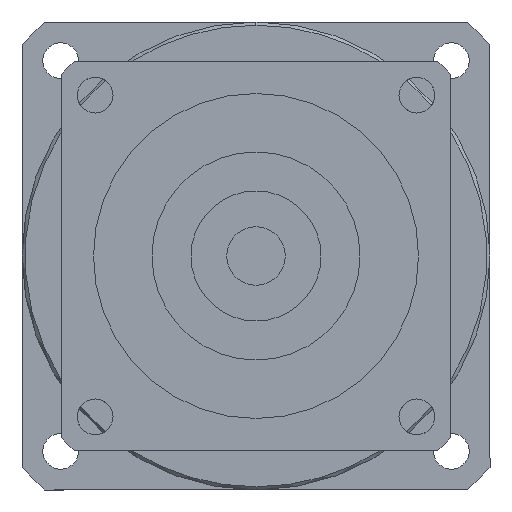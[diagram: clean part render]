
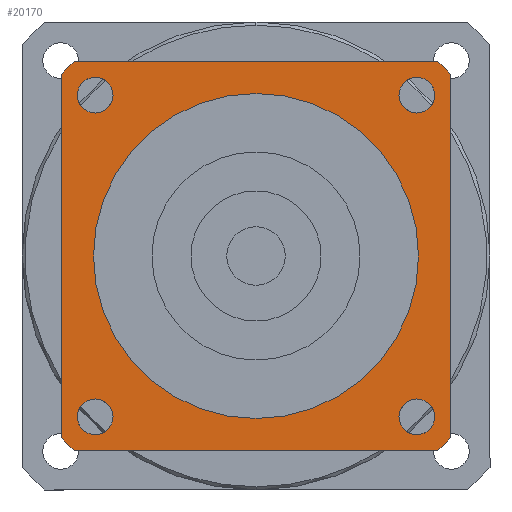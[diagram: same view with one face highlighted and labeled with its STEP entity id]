
A CAD part, left-side view. The second image highlights one B-rep face of the part: STEP entity #20170.
In plain terms, the highlighted planar face has unit normal (-1, 0, 0) as drawn and (0, 0, -1) by its records, which use the part's own axes.
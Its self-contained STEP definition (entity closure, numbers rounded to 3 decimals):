
#15410=CARTESIAN_POINT('',(27.946,30.,-91.5));
#15420=VERTEX_POINT('',#15410);
#15650=CARTESIAN_POINT('',(-27.946,30.,-91.5));
#15660=VERTEX_POINT('',#15650);
#15690=CARTESIAN_POINT('',(30.,30.,-91.5));
#15700=DIRECTION('',(-1.,0.,0.));
#15710=VECTOR('',#15700,1000.);
#15720=LINE('',#15690,#15710);
#15730=EDGE_CURVE('',#15420,#15660,#15720,.T.);
#15890=CARTESIAN_POINT('',(-30.,-27.946,-91.5));
#15900=VERTEX_POINT('',#15890);
#16060=CARTESIAN_POINT('',(-27.946,-30.,-91.5));
#16070=VERTEX_POINT('',#16060);
#16100=CARTESIAN_POINT('',(0.,0.,
-91.5));
#16110=DIRECTION('',(0.,0.,1.));
#16120=DIRECTION('',(0.,-1.,0.));
#16130=AXIS2_PLACEMENT_3D('',#16100,#16110,#16120);
#16140=CIRCLE('',#16130,41.);
#16150=EDGE_CURVE('',#15900,#16070,#16140,.T.);
#18040=CARTESIAN_POINT('',(0.,0.,
-91.5));
#18050=DIRECTION('',(0.,0.,1.));
#18060=DIRECTION('',(0.,-1.,0.));
#18070=AXIS2_PLACEMENT_3D('',#18040,#18050,#18060);
#18080=CIRCLE('',#18070,41.);
#18090=CARTESIAN_POINT('',(30.,27.946,-91.5));
#18100=VERTEX_POINT('',#18090);
#18110=EDGE_CURVE('',#18100,#15420,#18080,.T.);
#18760=CARTESIAN_POINT('',(-27.499,-24.749,-91.5));
#18770=VERTEX_POINT('',#18760);
#18800=CARTESIAN_POINT('',(-24.749,-24.749,-91.5));
#18810=DIRECTION('',(0.,0.,-1.));
#18820=DIRECTION('',(0.,-1.,0.));
#18830=AXIS2_PLACEMENT_3D('',#18800,#18810,#18820);
#18840=CIRCLE('',#18830,2.75);
#18850=CARTESIAN_POINT('',(-21.999,-24.749,-91.5));
#18860=VERTEX_POINT('',#18850);
#18870=EDGE_CURVE('',#18860,#18770,#18840,.T.);
#19000=CARTESIAN_POINT('',(-30.,30.,-91.5));
#19010=DIRECTION('',(0.,0.,1.));
#19020=DIRECTION('',(-1.,0.,0.));
#19030=AXIS2_PLACEMENT_3D('',#19000,#19010,#19020);
#19040=PLANE('',#19030);
#19050=CARTESIAN_POINT('',(24.749,-24.749,-91.5));
#19060=DIRECTION('',(0.,0.,-1.));
#19070=DIRECTION('',(1.,0.,0.));
#19080=AXIS2_PLACEMENT_3D('',#19050,#19060,#19070);
#19090=CIRCLE('',#19080,2.75);
#19100=CARTESIAN_POINT('',(24.749,-27.499,-91.5));
#19110=VERTEX_POINT('',#19100);
#19120=CARTESIAN_POINT('',(24.749,-21.999,-91.5));
#19130=VERTEX_POINT('',#19120);
#19140=EDGE_CURVE('',#19110,#19130,#19090,.T.);
#19150=ORIENTED_EDGE('',*,*,#19140,.F.);
#19160=EDGE_CURVE('',#19130,#19110,#19090,.T.);
#19170=ORIENTED_EDGE('',*,*,#19160,.F.);
#19180=EDGE_LOOP('',(#19170,#19150));
#19190=FACE_BOUND('',#19180,.T.);
#19200=CARTESIAN_POINT('',(24.749,24.749,-91.5));
#19210=DIRECTION('',(0.,0.,-1.));
#19220=DIRECTION('',(0.,1.,0.));
#19230=AXIS2_PLACEMENT_3D('',#19200,#19210,#19220);
#19240=CIRCLE('',#19230,2.75);
#19250=CARTESIAN_POINT('',(21.999,24.749,-91.5));
#19260=VERTEX_POINT('',#19250);
#19270=CARTESIAN_POINT('',(27.499,24.749,-91.5));
#19280=VERTEX_POINT('',#19270);
#19290=EDGE_CURVE('',#19260,#19280,#19240,.T.);
#19300=ORIENTED_EDGE('',*,*,#19290,.F.);
#19310=EDGE_CURVE('',#19280,#19260,#19240,.T.);
#19320=ORIENTED_EDGE('',*,*,#19310,.F.);
#19330=EDGE_LOOP('',(#19320,#19300));
#19340=FACE_BOUND('',#19330,.T.);
#19350=CARTESIAN_POINT('',(-24.749,24.749,-91.5));
#19360=DIRECTION('',(0.,0.,-1.));
#19370=DIRECTION('',(-1.,0.,0.));
#19380=AXIS2_PLACEMENT_3D('',#19350,#19360,#19370);
#19390=CIRCLE('',#19380,2.75);
#19400=CARTESIAN_POINT('',(-24.749,27.499,-91.5));
#19410=VERTEX_POINT('',#19400);
#19420=CARTESIAN_POINT('',(-24.749,21.999,-91.5));
#19430=VERTEX_POINT('',#19420);
#19440=EDGE_CURVE('',#19410,#19430,#19390,.T.);
#19450=ORIENTED_EDGE('',*,*,#19440,.F.);
#19460=EDGE_CURVE('',#19430,#19410,#19390,.T.);
#19470=ORIENTED_EDGE('',*,*,#19460,.F.);
#19480=EDGE_LOOP('',(#19470,#19450));
#19490=FACE_BOUND('',#19480,.T.);
#19500=EDGE_CURVE('',#18770,#18860,#18840,.T.);
#19510=ORIENTED_EDGE('',*,*,#19500,.F.);
#19520=ORIENTED_EDGE('',*,*,#18870,.F.);
#19530=EDGE_LOOP('',(#19520,#19510));
#19540=FACE_BOUND('',#19530,.T.);
#19550=ORIENTED_EDGE('',*,*,#16150,.F.);
#19560=CARTESIAN_POINT('',(-30.,-30.,-91.5));
#19570=DIRECTION('',(1.,0.,0.));
#19580=VECTOR('',#19570,1000.);
#19590=LINE('',#19560,#19580);
#19600=CARTESIAN_POINT('',(27.946,-30.,-91.5));
#19610=VERTEX_POINT('',#19600);
#19620=EDGE_CURVE('',#16070,#19610,#19590,.T.);
#19630=ORIENTED_EDGE('',*,*,#19620,.F.);
#19640=CARTESIAN_POINT('',(0.,0.,
-91.5));
#19650=DIRECTION('',(0.,0.,1.));
#19660=DIRECTION('',(0.,-1.,0.));
#19670=AXIS2_PLACEMENT_3D('',#19640,#19650,#19660);
#19680=CIRCLE('',#19670,41.);
#19690=CARTESIAN_POINT('',(30.,-27.946,-91.5));
#19700=VERTEX_POINT('',#19690);
#19710=EDGE_CURVE('',#19610,#19700,#19680,.T.);
#19720=ORIENTED_EDGE('',*,*,#19710,.F.);
#19730=CARTESIAN_POINT('',(30.,-30.,-91.5));
#19740=DIRECTION('',(0.,1.,0.));
#19750=VECTOR('',#19740,1000.);
#19760=LINE('',#19730,#19750);
#19770=EDGE_CURVE('',#19700,#18100,#19760,.T.);
#19780=ORIENTED_EDGE('',*,*,#19770,.F.);
#19790=ORIENTED_EDGE('',*,*,#18110,.F.);
#19800=ORIENTED_EDGE('',*,*,#15730,.F.);
#19810=CARTESIAN_POINT('',(0.,0.,
-91.5));
#19820=DIRECTION('',(0.,0.,1.));
#19830=DIRECTION('',(0.,-1.,0.));
#19840=AXIS2_PLACEMENT_3D('',#19810,#19820,#19830);
#19850=CIRCLE('',#19840,41.);
#19860=CARTESIAN_POINT('',(-30.,27.946,-91.5));
#19870=VERTEX_POINT('',#19860);
#19880=EDGE_CURVE('',#15660,#19870,#19850,.T.);
#19890=ORIENTED_EDGE('',*,*,#19880,.F.);
#19900=CARTESIAN_POINT('',(-30.,30.,-91.5));
#19910=DIRECTION('',(0.,-1.,0.));
#19920=VECTOR('',#19910,1000.);
#19930=LINE('',#19900,#19920);
#19940=EDGE_CURVE('',#19870,#15900,#19930,.T.);
#19950=ORIENTED_EDGE('',*,*,#19940,.F.);
#19960=EDGE_LOOP('',(#19950,#19890,#19800,#19790,#19780,#19720,#19630,
#19550));
#19970=FACE_OUTER_BOUND('',#19960,.T.);
#19980=CARTESIAN_POINT('',(0.,0.,
-91.5));
#19990=DIRECTION('',(0.,0.,1.));
#20000=DIRECTION('',(0.,-1.,0.));
#20010=AXIS2_PLACEMENT_3D('',#19980,#19990,#20000);
#20020=CIRCLE('',#20010,25.);
#20030=CARTESIAN_POINT('',(25.,0.,-91.5));
#20040=VERTEX_POINT('',#20030);
#20050=CARTESIAN_POINT('',(-25.,0.,-91.5));
#20060=VERTEX_POINT('',#20050);
#20070=EDGE_CURVE('',#20040,#20060,#20020,.T.);
#20080=ORIENTED_EDGE('',*,*,#20070,.T.);
#20090=CARTESIAN_POINT('',(0.,-25.,-91.5));
#20100=VERTEX_POINT('',#20090);
#20110=EDGE_CURVE('',#20100,#20040,#20020,.T.);
#20120=ORIENTED_EDGE('',*,*,#20110,.T.);
#20130=EDGE_CURVE('',#20060,#20100,#20020,.T.);
#20140=ORIENTED_EDGE('',*,*,#20130,.T.);
#20150=EDGE_LOOP('',(#20140,#20120,#20080));
#20160=FACE_BOUND('',#20150,.T.);
#20170=ADVANCED_FACE('',(#19190,#19340,#19490,#19540,#19970,#20160),
#19040,.F.);
